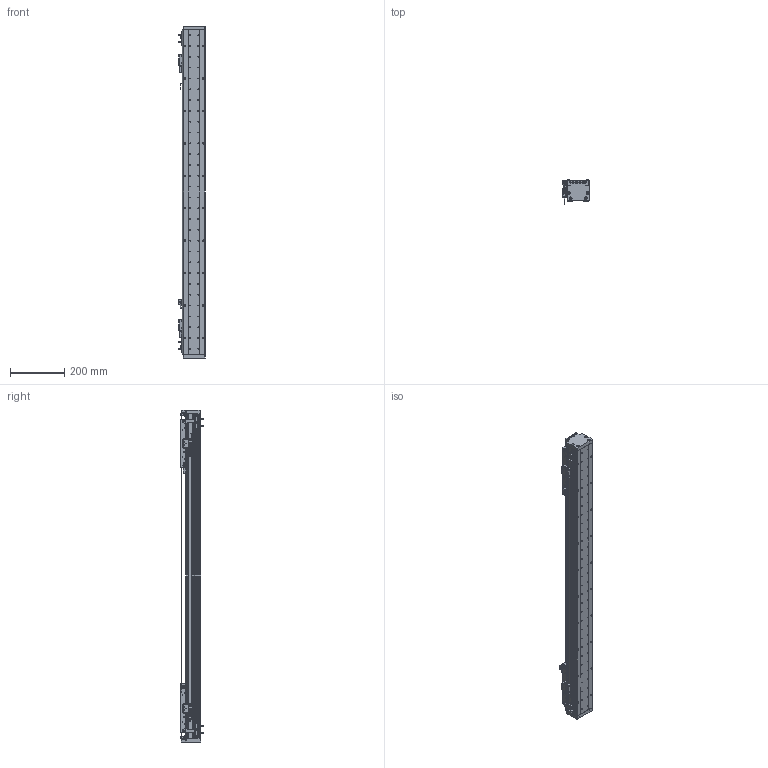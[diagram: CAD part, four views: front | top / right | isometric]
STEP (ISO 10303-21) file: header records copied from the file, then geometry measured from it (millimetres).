
FILE_DESCRIPTION (( 'STEP AP203' ), '1' );
FILE_NAME ('DA-A82-2-B2-T780-C010-0.2 眻盄萇儂.STEP', '2025-08-13T02:31:42', ( '' ), ( '' ), 'SwSTEP 2.0', 'SolidWorks 2019', '' );
FILE_SCHEMA (( 'CONFIG_CONTROL_DESIGN' ));
Length unit declared in the file: millimetre
Products named in the file (29): 复件 DA95-B2-GT-00 滑块钢轨^AU82-M-00 一体化滑动台板; AU82-M-00 珨极趙賑雄怢啣; AU82-HT-M-00 賑雄怢啣; 复件 复件 17517-0000-002-00 端板^DA-A82-B2-T-C010-0.2-N 直线电机; 复件 DA95-GT-T-00 底座钢轨^IU-AU82-L 底座导轨; AU82-M 幗紩賑怢; 复件 DKW-GJ-XJ-00 防撞橡胶^DA-A82-B2-T-C010-0.2-N 直线电机; 复件 XD-U-02  磁栅尺^DA-A82-B2-T-C010-0.2-N 直线电机; 葩璃 PM-L25^DA-A82-B2-T-C010-0.2-N 眻盄萇儂; 葩璃 DA82-B2-DP-00 結え^AU82-M 幗紩賑怢; DA-A82-2-B2-T780-C010-0.2 眻盄萇儂; 复件 纯铜油杯 6x6mm^AU82-M 滚珠滑台; IU-AU82-L-00 菁釱(L1200); 葩璃 BKM01-W040-TRL^DA-A82-B2-T-C010-0.2-N 眻盄萇儂; 复件 DA82-GYP-ZJ-00 中间光电感应片^DA-A82-B2-T-C010-0.2-N 直线电机; 复件 DA60-DMT-DTJ-00 读数头支架^DA-A82-B2-T-C010-0.2-N 直线电机; 复件 复件 复件 DA82 钢带盖板^DA-A82-B2-T-C010-0.2-N 直线电机(默认); 复件 DA82-GDZ-ZJ-00 中间光电固定座^DA-A82-B2-T-C010-0.2-N 直线电机; 复件 复件 17517-0000-003-00 钢带拉块^DA-A82-B2-T-C010-0.2-N 直线电机; DA-A60-GYP-DMT-00 光电感应片^DA-A82-B2-T-C010-0.2-N 直线电机(默认); AU82-M-00 珨极趙賑雄怢啣-1; 复件 复件 17517-0000-004-00  钢带压块^DA-A82-B2-T-C010-0.2-N 直线电机(默认); 复件 BKM02-W040-C1-TP-DA-3.0 直线电机动子^DA-A82-B2-T-C010-0.2-N 直线电机; 复件 六角薄螺母 M3^DA-A82-B2-T-C010-0.2-N 直线电机; IU-AU82-L 菁釱絳寢; 葩璃 DMT-010 1米m 0.2M^DA-A82-B2-T-C010-0.2-N 眻盄萇儂; 葩璃 PM-T45^DA-A82-B2-T-C010-0.2-N 眻盄萇儂; AU82-M 幗紩賑怢-1; 复件 复件 DA82-XJ-00 缓冲橡胶^DA-A82-B2-T-C010-0.2-N 直线电机
Assembly tree (61 placements, depth 4):
  DA-A82-2-B2-T780-C010-0.2 眻盄萇儂
    IU-AU82-L 菁釱絳寢
      IU-AU82-L-00 菁釱(L1200)
      复件 DA95-GT-T-00 底座钢轨^IU-AU82-L 底座导轨  x2
    AU82-M 幗紩賑怢
      AU82-M-00 珨极趙賑雄怢啣
        AU82-HT-M-00 賑雄怢啣
        复件 DA95-B2-GT-00 滑块钢轨^AU82-M-00 一体化滑动台板  x4
      葩璃 DA82-B2-DP-00 結え^AU82-M 幗紩賑怢  x2
      复件 纯铜油杯 6x6mm^AU82-M 滚珠滑台  x2
    AU82-M 幗紩賑怢-1
      AU82-M-00 珨极趙賑雄怢啣-1
        AU82-HT-M-00 賑雄怢啣
        复件 DA95-B2-GT-00 滑块钢轨^AU82-M-00 一体化滑动台板  x4
      葩璃 DA82-B2-DP-00 結え^AU82-M 幗紩賑怢  x2
      复件 纯铜油杯 6x6mm^AU82-M 滚珠滑台  x2
    复件 BKM02-W040-C1-TP-DA-3.0 直线电机动子^DA-A82-B2-T-C010-0.2-N 直线电机  x2
    复件 DA60-DMT-DTJ-00 读数头支架^DA-A82-B2-T-C010-0.2-N 直线电机  x2
    葩璃 DMT-010 1米m 0.2M^DA-A82-B2-T-C010-0.2-N 眻盄萇儂  x2
    DA-A60-GYP-DMT-00 光电感应片^DA-A82-B2-T-C010-0.2-N 直线电机(默认)  x2
    复件 DA82-GDZ-ZJ-00 中间光电固定座^DA-A82-B2-T-C010-0.2-N 直线电机
    葩璃 PM-L25^DA-A82-B2-T-C010-0.2-N 眻盄萇儂
    复件 DA82-GYP-ZJ-00 中间光电感应片^DA-A82-B2-T-C010-0.2-N 直线电机
    复件 DKW-GJ-XJ-00 防撞橡胶^DA-A82-B2-T-C010-0.2-N 直线电机
    复件 复件 17517-0000-003-00 钢带拉块^DA-A82-B2-T-C010-0.2-N 直线电机  x2
    复件 复件 DA82-XJ-00 缓冲橡胶^DA-A82-B2-T-C010-0.2-N 直线电机  x2
    复件 复件 17517-0000-004-00  钢带压块^DA-A82-B2-T-C010-0.2-N 直线电机(默认)  x2
    复件 复件 17517-0000-002-00 端板^DA-A82-B2-T-C010-0.2-N 直线电机  x2
    复件 复件 复件 DA82 钢带盖板^DA-A82-B2-T-C010-0.2-N 直线电机(默认)
    葩璃 BKM01-W040-TRL^DA-A82-B2-T-C010-0.2-N 眻盄萇儂
    葩璃 PM-T45^DA-A82-B2-T-C010-0.2-N 眻盄萇儂  x4
    复件 XD-U-02  磁栅尺^DA-A82-B2-T-C010-0.2-N 直线电机
    复件 六角薄螺母 M3^DA-A82-B2-T-C010-0.2-N 直线电机  x8
Bounding box: 98.95 x 87.2 x 1228 mm (x, y, z)
Volume: 4123239.9 mm3; surface area: 1215455.3 mm2
Topology: 70 solids, 118 shells, 3225 faces, 8237 edges, 5094 vertices
Faces by surface type: cylinder 1419, plane 1314, cone 456, bspline 16, torus 16, sphere 4
Entity records: 63587 total; most frequent: CARTESIAN_POINT 13557, DIRECTION 9915, ORIENTED_EDGE 9256, EDGE_CURVE 4628, AXIS2_PLACEMENT_3D 3737, VERTEX_POINT 2998, LINE 2441, VECTOR 2441
